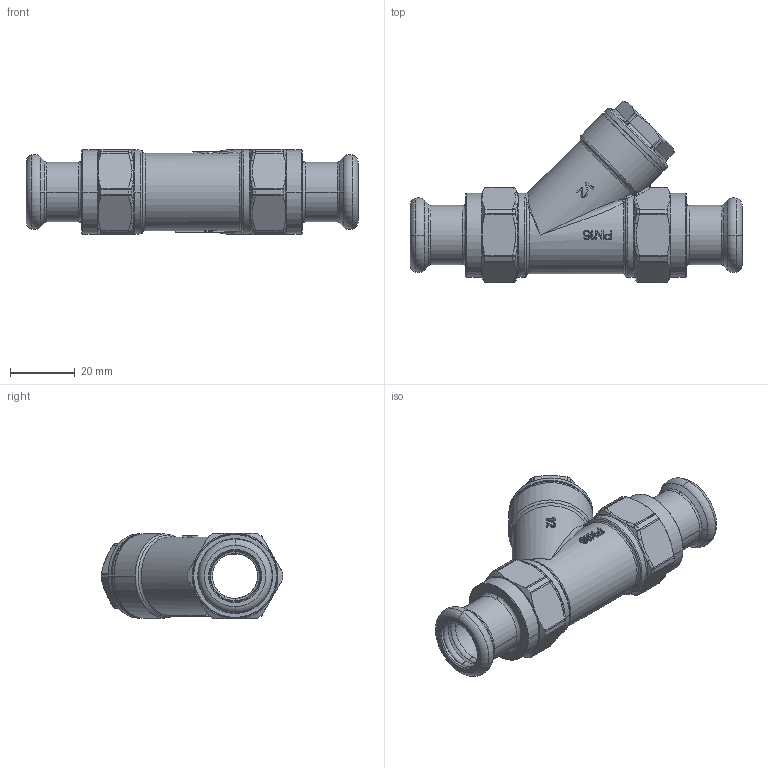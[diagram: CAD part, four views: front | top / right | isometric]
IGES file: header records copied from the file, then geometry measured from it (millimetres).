
Global section: file name: No Iges File Name specified; native system: AutoDesk Inventor R12.0; preprocessor: AutoDesk Inventor Iges Exporter R12.0; date: 20120203.134443; units: millimetre
Bounding box: 102.6 x 56.14 x 26.5 mm (x, y, z)
Volume: 28059 mm3; surface area: 21389.3 mm2
Topology: 1 solids, 2 shells, 688 faces, 1777 edges, 1107 vertices
Faces by surface type: bspline 245, plane 151, cylinder 98, revolution 93, cone 49, torus 30, sphere 22
